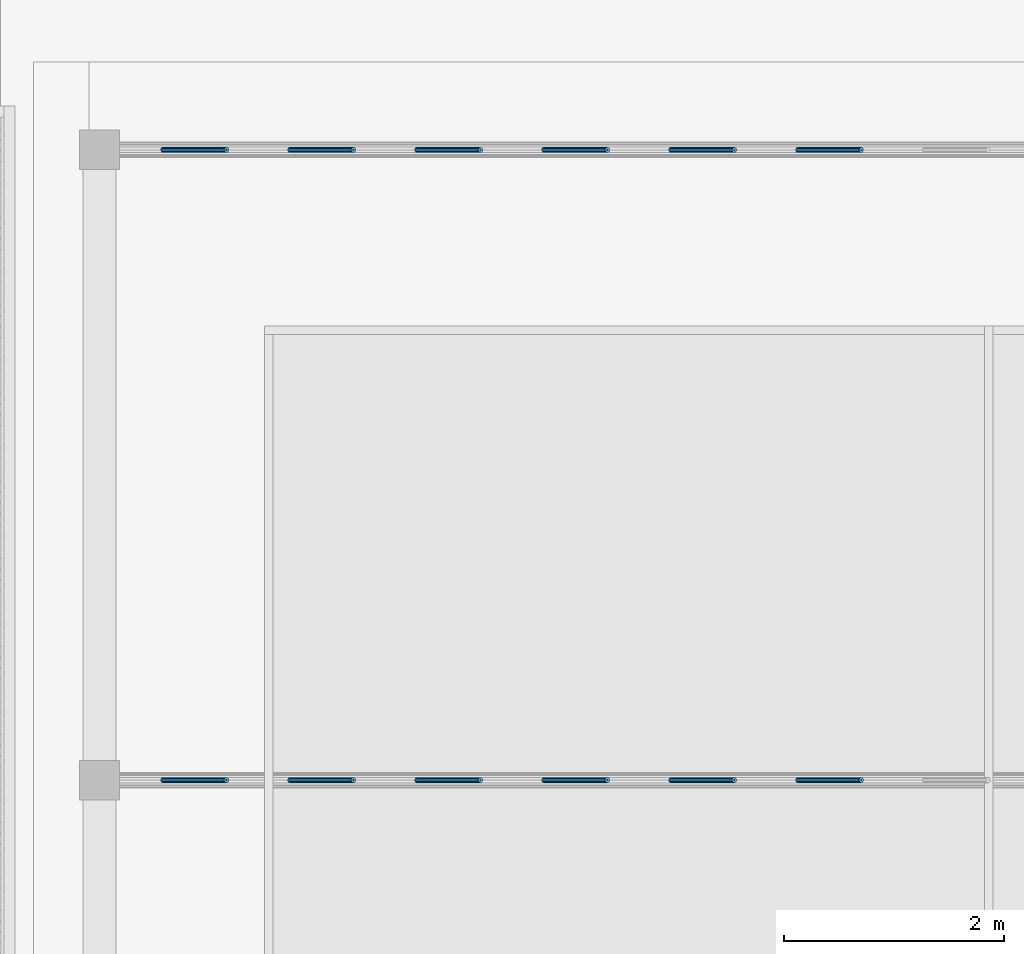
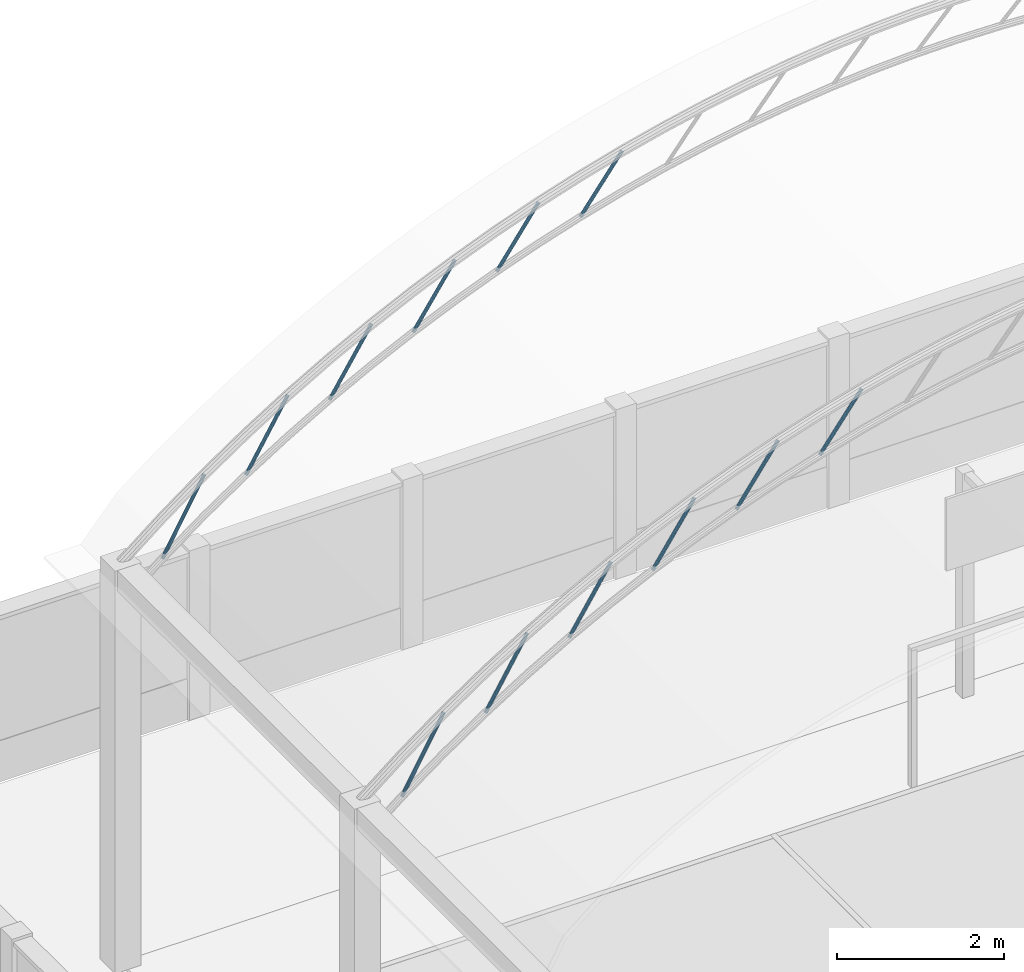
# One storey, part 22 of 151: 12 beams.
"""IFC2X3 building model written with IfcOpenShell, lengths in metres."""

from ifc_helpers import new_model, si_unit, origin, origin_with_axes, place, context, subcontext, project, spatial, faceted_brep, element, save


model = new_model("IFC2X3")

# Units and contexts
model_context = context("Model", 3, precision=1e-05, world=origin_with_axes())
body_context = subcontext(model_context, "Body", "Model", "MODEL_VIEW")
ifc_project = project(units=[si_unit("LENGTHUNIT", "METRE"), si_unit("AREAUNIT", "SQUARE_METRE"), si_unit("VOLUMEUNIT", "CUBIC_METRE"), si_unit("PLANEANGLEUNIT", "RADIAN")], contexts=[model_context])

# Site, building, storey
site_placement = place(None, origin_with_axes())
site = spatial("IfcSite", under=ifc_project, at=site_placement, Name="Predio Los Mangos - Morales, San Martín", CompositionType="ELEMENT")
building_placement = place(site_placement, origin())
building = spatial("IfcBuilding", under=site, at=building_placement, Name="Hogar de Refugio Temporal", CompositionType="ELEMENT")
storey_placement = place(building_placement, origin())
storey = spatial("IfcBuildingStorey", under=building, at=storey_placement, Name="NIVEL 1 (NPT +0.00)", CompositionType="ELEMENT", Elevation=0.0)

# Beams
beam_1_placement = place(storey_placement, origin())
element("IfcBeam", 1, at=beam_1_placement, inside=storey, Name="diag", ObjectType="Viga", context=body_context, shape_type="Brep", body=[
    faceted_brep([(4.0666, 121.2883, 5.8202), (4.6441, 121.2883, 6.8469), (4.655, 121.2917, 6.8408), (4.0775, 121.2917, 5.8141), (4.0586, 121.2792, 5.8247), (4.6361, 121.2792, 6.8514), (4.0557, 121.2667, 5.8263), (4.6332, 121.2667, 6.8531), (4.0586, 121.2542, 5.8247), (4.6361, 121.2542, 6.8514), (4.0666, 121.245, 5.8202), (4.6441, 121.245, 6.8469), (4.0775, 121.2417, 5.8141), (4.655, 121.2417, 6.8408), (4.0884, 121.245, 5.808), (4.6659, 121.245, 6.8347), (4.0964, 121.2542, 5.8035), (4.6739, 121.2542, 6.8302), (4.0993, 121.2667, 5.8018), (4.6768, 121.2667, 6.8286), (4.0964, 121.2792, 5.8035), (4.6739, 121.2792, 6.8302), (4.0884, 121.2883, 5.808), (4.6659, 121.2883, 6.8347), (4.0756, 121.2704, 5.8151), (4.0775, 121.271, 5.8141), (4.655, 121.271, 6.8408), (4.6531, 121.2704, 6.8419), (4.0743, 121.2688, 5.8159), (4.6518, 121.2688, 6.8426), (4.0738, 121.2667, 5.8162), (4.6513, 121.2667, 6.8429), (4.0743, 121.2645, 5.8159), (4.6518, 121.2645, 6.8426), (4.0756, 121.2629, 5.8151), (4.6531, 121.2629, 6.8419), (4.0775, 121.2624, 5.8141), (4.655, 121.2624, 6.8408), (4.0794, 121.2629, 5.813), (4.6569, 121.2629, 6.8398), (4.0807, 121.2645, 5.8123), (4.6582, 121.2645, 6.839), (4.0812, 121.2667, 5.812), (4.6587, 121.2667, 6.8387), (4.0807, 121.2688, 5.8123), (4.6582, 121.2688, 6.839), (4.0794, 121.2704, 5.813), (4.6569, 121.2704, 6.8398)], [[[0, 1, 2, 3]], [[4, 5, 1, 0]], [[6, 7, 5, 4]], [[8, 9, 7, 6]], [[10, 11, 9, 8]], [[12, 13, 11, 10]], [[14, 15, 13, 12]], [[16, 17, 15, 14]], [[18, 19, 17, 16]], [[20, 21, 19, 18]], [[22, 23, 21, 20]], [[3, 2, 23, 22]], [[24, 25, 26, 27]], [[28, 24, 27, 29]], [[30, 28, 29, 31]], [[32, 30, 31, 33]], [[34, 32, 33, 35]], [[36, 34, 35, 37]], [[38, 36, 37, 39]], [[40, 38, 39, 41]], [[42, 40, 41, 43]], [[44, 42, 43, 45]], [[46, 44, 45, 47]], [[25, 46, 47, 26]], [[4, 0, 24, 28]], [[14, 12, 36, 38]], [[3, 22, 46, 25]], [[7, 9, 33, 31]], [[17, 19, 43, 41]], [[23, 2, 26, 47]], [[10, 8, 32, 34]], [[20, 18, 42, 44]], [[1, 5, 29, 27]], [[13, 15, 39, 37]], [[6, 4, 28, 30]], [[16, 14, 38, 40]], [[0, 3, 25, 24]], [[9, 11, 35, 33]], [[19, 21, 45, 43]], [[12, 10, 34, 36]], [[22, 20, 44, 46]], [[5, 7, 31, 29]], [[15, 17, 41, 39]], [[2, 1, 27, 26]], [[8, 6, 30, 32]], [[18, 16, 40, 42]], [[11, 13, 37, 35]], [[21, 23, 47, 45]]]),
])
beam_2_placement = place(storey_placement, origin())
element("IfcBeam", 2, at=beam_2_placement, inside=storey, Name="diag", ObjectType="Viga", context=body_context, shape_type="Brep", body=[
    faceted_brep([(5.2218, 121.2883, 6.6398), (5.7993, 121.2883, 7.6007), (5.81, 121.2917, 7.5943), (5.2325, 121.2917, 6.6333), (5.2139, 121.2792, 6.6445), (5.7914, 121.2792, 7.6055), (5.2111, 121.2667, 6.6462), (5.7886, 121.2667, 7.6072), (5.2139, 121.2542, 6.6445), (5.7914, 121.2542, 7.6055), (5.2218, 121.245, 6.6398), (5.7993, 121.245, 7.6007), (5.2325, 121.2417, 6.6333), (5.81, 121.2417, 7.5943), (5.2432, 121.245, 6.6269), (5.8207, 121.245, 7.5879), (5.2511, 121.2542, 6.6222), (5.8286, 121.2542, 7.5832), (5.2539, 121.2667, 6.6205), (5.8314, 121.2667, 7.5814), (5.2511, 121.2792, 6.6222), (5.8286, 121.2792, 7.5832), (5.2432, 121.2883, 6.6269), (5.8207, 121.2883, 7.5879), (5.2307, 121.2704, 6.6345), (5.2325, 121.271, 6.6333), (5.81, 121.271, 7.5943), (5.8082, 121.2704, 7.5954), (5.2293, 121.2688, 6.6353), (5.8068, 121.2688, 7.5962), (5.2288, 121.2667, 6.6356), (5.8063, 121.2667, 7.5965), (5.2293, 121.2645, 6.6353), (5.8068, 121.2645, 7.5962), (5.2307, 121.2629, 6.6345), (5.8082, 121.2629, 7.5954), (5.2325, 121.2624, 6.6333), (5.81, 121.2624, 7.5943), (5.2343, 121.2629, 6.6322), (5.8118, 121.2629, 7.5932), (5.2357, 121.2645, 6.6314), (5.8132, 121.2645, 7.5924), (5.2362, 121.2667, 6.6311), (5.8137, 121.2667, 7.5921), (5.2357, 121.2688, 6.6314), (5.8132, 121.2688, 7.5924), (5.2343, 121.2704, 6.6322), (5.8118, 121.2704, 7.5932)], [[[0, 1, 2, 3]], [[4, 5, 1, 0]], [[6, 7, 5, 4]], [[8, 9, 7, 6]], [[10, 11, 9, 8]], [[12, 13, 11, 10]], [[14, 15, 13, 12]], [[16, 17, 15, 14]], [[18, 19, 17, 16]], [[20, 21, 19, 18]], [[22, 23, 21, 20]], [[3, 2, 23, 22]], [[24, 25, 26, 27]], [[28, 24, 27, 29]], [[30, 28, 29, 31]], [[32, 30, 31, 33]], [[34, 32, 33, 35]], [[36, 34, 35, 37]], [[38, 36, 37, 39]], [[40, 38, 39, 41]], [[42, 40, 41, 43]], [[44, 42, 43, 45]], [[46, 44, 45, 47]], [[25, 46, 47, 26]], [[4, 0, 24, 28]], [[14, 12, 36, 38]], [[3, 22, 46, 25]], [[7, 9, 33, 31]], [[17, 19, 43, 41]], [[23, 2, 26, 47]], [[10, 8, 32, 34]], [[20, 18, 42, 44]], [[1, 5, 29, 27]], [[13, 15, 39, 37]], [[6, 4, 28, 30]], [[16, 14, 38, 40]], [[0, 3, 25, 24]], [[9, 11, 35, 33]], [[19, 21, 45, 43]], [[12, 10, 34, 36]], [[22, 20, 44, 46]], [[5, 7, 31, 29]], [[15, 17, 41, 39]], [[2, 1, 27, 26]], [[8, 6, 30, 32]], [[18, 16, 40, 42]], [[11, 13, 37, 35]], [[21, 23, 47, 45]]]),
])
beam_3_placement = place(storey_placement, origin())
element("IfcBeam", 3, at=beam_3_placement, inside=storey, Name="diag", ObjectType="Viga", context=body_context, shape_type="Brep", body=[
    faceted_brep([(6.377, 121.2883, 7.3326), (6.9545, 121.2883, 8.2366), (6.965, 121.2917, 8.2298), (6.3875, 121.2917, 7.3259), (6.3693, 121.2792, 7.3375), (6.9468, 121.2792, 8.2415), (6.3664, 121.2667, 7.3393), (6.9439, 121.2667, 8.2433), (6.3693, 121.2542, 7.3375), (6.9468, 121.2542, 8.2415), (6.377, 121.245, 7.3326), (6.9545, 121.245, 8.2366), (6.3875, 121.2417, 7.3259), (6.965, 121.2417, 8.2298), (6.398, 121.245, 7.3191), (6.9755, 121.245, 8.2231), (6.4057, 121.2542, 7.3142), (6.9832, 121.2542, 8.2182), (6.4086, 121.2667, 7.3124), (6.9861, 121.2667, 8.2164), (6.4057, 121.2792, 7.3142), (6.9832, 121.2792, 8.2182), (6.398, 121.2883, 7.3191), (6.9755, 121.2883, 8.2231), (6.3857, 121.2704, 7.327), (6.3875, 121.271, 7.3259), (6.965, 121.271, 8.2298), (6.9632, 121.2704, 8.231), (6.3844, 121.2688, 7.3279), (6.9619, 121.2688, 8.2318), (6.3839, 121.2667, 7.3282), (6.9614, 121.2667, 8.2321), (6.3844, 121.2645, 7.3279), (6.9619, 121.2645, 8.2318), (6.3857, 121.2629, 7.327), (6.9632, 121.2629, 8.231), (6.3875, 121.2624, 7.3259), (6.965, 121.2624, 8.2298), (6.3893, 121.2629, 7.3247), (6.9668, 121.2629, 8.2287), (6.3906, 121.2645, 7.3239), (6.9681, 121.2645, 8.2278), (6.3911, 121.2667, 7.3235), (6.9686, 121.2667, 8.2275), (6.3906, 121.2688, 7.3239), (6.9681, 121.2688, 8.2278), (6.3893, 121.2704, 7.3247), (6.9668, 121.2704, 8.2287)], [[[0, 1, 2, 3]], [[4, 5, 1, 0]], [[6, 7, 5, 4]], [[8, 9, 7, 6]], [[10, 11, 9, 8]], [[12, 13, 11, 10]], [[14, 15, 13, 12]], [[16, 17, 15, 14]], [[18, 19, 17, 16]], [[20, 21, 19, 18]], [[22, 23, 21, 20]], [[3, 2, 23, 22]], [[24, 25, 26, 27]], [[28, 24, 27, 29]], [[30, 28, 29, 31]], [[32, 30, 31, 33]], [[34, 32, 33, 35]], [[36, 34, 35, 37]], [[38, 36, 37, 39]], [[40, 38, 39, 41]], [[42, 40, 41, 43]], [[44, 42, 43, 45]], [[46, 44, 45, 47]], [[25, 46, 47, 26]], [[4, 0, 24, 28]], [[14, 12, 36, 38]], [[3, 22, 46, 25]], [[7, 9, 33, 31]], [[17, 19, 43, 41]], [[23, 2, 26, 47]], [[10, 8, 32, 34]], [[20, 18, 42, 44]], [[1, 5, 29, 27]], [[13, 15, 39, 37]], [[6, 4, 28, 30]], [[16, 14, 38, 40]], [[0, 3, 25, 24]], [[9, 11, 35, 33]], [[19, 21, 45, 43]], [[12, 10, 34, 36]], [[22, 20, 44, 46]], [[5, 7, 31, 29]], [[15, 17, 41, 39]], [[2, 1, 27, 26]], [[8, 6, 30, 32]], [[18, 16, 40, 42]], [[11, 13, 37, 35]], [[21, 23, 47, 45]]]),
])
beam_4_placement = place(storey_placement, origin())
element("IfcBeam", 4, at=beam_4_placement, inside=storey, Name="diag", ObjectType="Viga", context=body_context, shape_type="Brep", body=[
    faceted_brep([(7.5321, 121.2883, 7.9148), (8.1096, 121.2883, 8.7679), (8.12, 121.2917, 8.7609), (7.5425, 121.2917, 7.9077), (7.5246, 121.2792, 7.9199), (8.1021, 121.2792, 8.7731), (7.5218, 121.2667, 7.9218), (8.0993, 121.2667, 8.7749), (7.5246, 121.2542, 7.9199), (8.1021, 121.2542, 8.7731), (7.5321, 121.245, 7.9148), (8.1096, 121.245, 8.7679), (7.5425, 121.2417, 7.9077), (8.12, 121.2417, 8.7609), (7.5529, 121.245, 7.9007), (8.1304, 121.245, 8.7539), (7.5604, 121.2542, 7.8956), (8.1379, 121.2542, 8.7488), (7.5632, 121.2667, 7.8937), (8.1407, 121.2667, 8.7469), (7.5604, 121.2792, 7.8956), (8.1379, 121.2792, 8.7488), (7.5529, 121.2883, 7.9007), (8.1304, 121.2883, 8.7539), (7.5407, 121.2704, 7.9089), (7.5425, 121.271, 7.9077), (8.12, 121.271, 8.7609), (8.1182, 121.2704, 8.7621), (7.5394, 121.2688, 7.9098), (8.1169, 121.2688, 8.763), (7.5389, 121.2667, 7.9102), (8.1164, 121.2667, 8.7633), (7.5394, 121.2645, 7.9098), (8.1169, 121.2645, 8.763), (7.5407, 121.2629, 7.9089), (8.1182, 121.2629, 8.7621), (7.5425, 121.2624, 7.9077), (8.12, 121.2624, 8.7609), (7.5443, 121.2629, 7.9065), (8.1218, 121.2629, 8.7597), (7.5456, 121.2645, 7.9057), (8.1231, 121.2645, 8.7588), (7.5461, 121.2667, 7.9053), (8.1236, 121.2667, 8.7585), (7.5456, 121.2688, 7.9057), (8.1231, 121.2688, 8.7588), (7.5443, 121.2704, 7.9065), (8.1218, 121.2704, 8.7597)], [[[0, 1, 2, 3]], [[4, 5, 1, 0]], [[6, 7, 5, 4]], [[8, 9, 7, 6]], [[10, 11, 9, 8]], [[12, 13, 11, 10]], [[14, 15, 13, 12]], [[16, 17, 15, 14]], [[18, 19, 17, 16]], [[20, 21, 19, 18]], [[22, 23, 21, 20]], [[3, 2, 23, 22]], [[24, 25, 26, 27]], [[28, 24, 27, 29]], [[30, 28, 29, 31]], [[32, 30, 31, 33]], [[34, 32, 33, 35]], [[36, 34, 35, 37]], [[38, 36, 37, 39]], [[40, 38, 39, 41]], [[42, 40, 41, 43]], [[44, 42, 43, 45]], [[46, 44, 45, 47]], [[25, 46, 47, 26]], [[4, 0, 24, 28]], [[14, 12, 36, 38]], [[3, 22, 46, 25]], [[7, 9, 33, 31]], [[17, 19, 43, 41]], [[23, 2, 26, 47]], [[10, 8, 32, 34]], [[20, 18, 42, 44]], [[1, 5, 29, 27]], [[13, 15, 39, 37]], [[6, 4, 28, 30]], [[16, 14, 38, 40]], [[0, 3, 25, 24]], [[9, 11, 35, 33]], [[19, 21, 45, 43]], [[12, 10, 34, 36]], [[22, 20, 44, 46]], [[5, 7, 31, 29]], [[15, 17, 41, 39]], [[2, 1, 27, 26]], [[8, 6, 30, 32]], [[18, 16, 40, 42]], [[11, 13, 37, 35]], [[21, 23, 47, 45]]]),
])
beam_5_placement = place(storey_placement, origin())
element("IfcBeam", 5, at=beam_5_placement, inside=storey, Name="diag", ObjectType="Viga", context=body_context, shape_type="Brep", body=[
    faceted_brep([(8.6873, 121.2883, 8.3978), (9.2648, 121.2883, 9.2047), (9.275, 121.2917, 9.1974), (8.6975, 121.2917, 8.3905), (8.6799, 121.2792, 8.4031), (9.2574, 121.2792, 9.21), (8.6772, 121.2667, 8.405), (9.2547, 121.2667, 9.2119), (8.6799, 121.2542, 8.4031), (9.2574, 121.2542, 9.21), (8.6873, 121.245, 8.3978), (9.2648, 121.245, 9.2047), (8.6975, 121.2417, 8.3905), (9.275, 121.2417, 9.1974), (8.7077, 121.245, 8.3832), (9.2852, 121.245, 9.1901), (8.7151, 121.2542, 8.3779), (9.2926, 121.2542, 9.1848), (8.7178, 121.2667, 8.3759), (9.2953, 121.2667, 9.1828), (8.7151, 121.2792, 8.3779), (9.2926, 121.2792, 9.1848), (8.7077, 121.2883, 8.3832), (9.2852, 121.2883, 9.1901), (8.6958, 121.2704, 8.3917), (8.6975, 121.271, 8.3905), (9.275, 121.271, 9.1974), (9.2733, 121.2704, 9.1986), (8.6945, 121.2688, 8.3927), (9.272, 121.2688, 9.1996), (8.694, 121.2667, 8.393), (9.2715, 121.2667, 9.1999), (8.6945, 121.2645, 8.3927), (9.272, 121.2645, 9.1996), (8.6958, 121.2629, 8.3917), (9.2733, 121.2629, 9.1986), (8.6975, 121.2624, 8.3905), (9.275, 121.2624, 9.1974), (8.6992, 121.2629, 8.3892), (9.2767, 121.2629, 9.1961), (8.7005, 121.2645, 8.3883), (9.278, 121.2645, 9.1952), (8.701, 121.2667, 8.388), (9.2785, 121.2667, 9.1949), (8.7005, 121.2688, 8.3883), (9.278, 121.2688, 9.1952), (8.6992, 121.2704, 8.3892), (9.2767, 121.2704, 9.1961)], [[[0, 1, 2, 3]], [[4, 5, 1, 0]], [[6, 7, 5, 4]], [[8, 9, 7, 6]], [[10, 11, 9, 8]], [[12, 13, 11, 10]], [[14, 15, 13, 12]], [[16, 17, 15, 14]], [[18, 19, 17, 16]], [[20, 21, 19, 18]], [[22, 23, 21, 20]], [[3, 2, 23, 22]], [[24, 25, 26, 27]], [[28, 24, 27, 29]], [[30, 28, 29, 31]], [[32, 30, 31, 33]], [[34, 32, 33, 35]], [[36, 34, 35, 37]], [[38, 36, 37, 39]], [[40, 38, 39, 41]], [[42, 40, 41, 43]], [[44, 42, 43, 45]], [[46, 44, 45, 47]], [[25, 46, 47, 26]], [[15, 17, 41, 39]], [[2, 1, 27, 26]], [[8, 6, 30, 32]], [[18, 16, 40, 42]], [[11, 13, 37, 35]], [[21, 23, 47, 45]], [[4, 0, 24, 28]], [[14, 12, 36, 38]], [[3, 22, 46, 25]], [[7, 9, 33, 31]], [[17, 19, 43, 41]], [[23, 2, 26, 47]], [[10, 8, 32, 34]], [[20, 18, 42, 44]], [[1, 5, 29, 27]], [[13, 15, 39, 37]], [[6, 4, 28, 30]], [[16, 14, 38, 40]], [[0, 3, 25, 24]], [[9, 11, 35, 33]], [[19, 21, 45, 43]], [[12, 10, 34, 36]], [[22, 20, 44, 46]], [[5, 7, 31, 29]]]),
])
beam_6_placement = place(storey_placement, origin())
element("IfcBeam", 6, at=beam_6_placement, inside=storey, Name="diag", ObjectType="Viga", context=body_context, shape_type="Brep", body=[
    faceted_brep([(9.8425, 121.2883, 8.79), (10.42, 121.2883, 9.5539), (10.43, 121.2917, 9.5463), (9.8525, 121.2917, 8.7824), (9.8352, 121.2792, 8.7955), (10.4127, 121.2792, 9.5594), (9.8326, 121.2667, 8.7975), (10.4101, 121.2667, 9.5614), (9.8352, 121.2542, 8.7955), (10.4127, 121.2542, 9.5594), (9.8425, 121.245, 8.79), (10.42, 121.245, 9.5539), (9.8525, 121.2417, 8.7824), (10.43, 121.2417, 9.5463), (9.8625, 121.245, 8.7749), (10.44, 121.245, 9.5388), (9.8698, 121.2542, 8.7694), (10.4473, 121.2542, 9.5333), (9.8724, 121.2667, 8.7674), (10.4499, 121.2667, 9.5313), (9.8698, 121.2792, 8.7694), (10.4473, 121.2792, 9.5333), (9.8625, 121.2883, 8.7749), (10.44, 121.2883, 9.5388), (9.8508, 121.2704, 8.7837), (9.8525, 121.271, 8.7824), (10.43, 121.271, 9.5463), (10.4283, 121.2704, 9.5476), (9.8495, 121.2688, 8.7847), (10.427, 121.2688, 9.5486), (9.8491, 121.2667, 8.785), (10.4266, 121.2667, 9.5489), (9.8495, 121.2645, 8.7847), (10.427, 121.2645, 9.5486), (9.8508, 121.2629, 8.7837), (10.4283, 121.2629, 9.5476), (9.8525, 121.2624, 8.7824), (10.43, 121.2624, 9.5463), (9.8542, 121.2629, 8.7812), (10.4317, 121.2629, 9.5451), (9.8555, 121.2645, 8.7802), (10.433, 121.2645, 9.5441), (9.8559, 121.2667, 8.7799), (10.4334, 121.2667, 9.5438), (9.8555, 121.2688, 8.7802), (10.433, 121.2688, 9.5441), (9.8542, 121.2704, 8.7812), (10.4317, 121.2704, 9.5451)], [[[0, 1, 2, 3]], [[4, 5, 1, 0]], [[6, 7, 5, 4]], [[8, 9, 7, 6]], [[10, 11, 9, 8]], [[12, 13, 11, 10]], [[14, 15, 13, 12]], [[16, 17, 15, 14]], [[18, 19, 17, 16]], [[20, 21, 19, 18]], [[22, 23, 21, 20]], [[3, 2, 23, 22]], [[24, 25, 26, 27]], [[28, 24, 27, 29]], [[30, 28, 29, 31]], [[32, 30, 31, 33]], [[34, 32, 33, 35]], [[36, 34, 35, 37]], [[38, 36, 37, 39]], [[40, 38, 39, 41]], [[42, 40, 41, 43]], [[44, 42, 43, 45]], [[46, 44, 45, 47]], [[25, 46, 47, 26]], [[6, 4, 28, 30]], [[16, 14, 38, 40]], [[0, 3, 25, 24]], [[9, 11, 35, 33]], [[19, 21, 45, 43]], [[12, 10, 34, 36]], [[22, 20, 44, 46]], [[5, 7, 31, 29]], [[15, 17, 41, 39]], [[2, 1, 27, 26]], [[8, 6, 30, 32]], [[18, 16, 40, 42]], [[11, 13, 37, 35]], [[21, 23, 47, 45]], [[4, 0, 24, 28]], [[14, 12, 36, 38]], [[3, 22, 46, 25]], [[7, 9, 33, 31]], [[17, 19, 43, 41]], [[23, 2, 26, 47]], [[10, 8, 32, 34]], [[20, 18, 42, 44]], [[1, 5, 29, 27]], [[13, 15, 39, 37]]]),
])
beam_7_placement = place(storey_placement, origin())
element("IfcBeam", 7, at=beam_7_placement, inside=storey, Name="diag", ObjectType="Viga", context=body_context, shape_type="Brep", body=[
    faceted_brep([(4.0666, 127.0217, 5.8202), (4.6441, 127.0217, 6.8469), (4.655, 127.025, 6.8408), (4.0775, 127.025, 5.8141), (4.0586, 127.0125, 5.8247), (4.6361, 127.0125, 6.8514), (4.0557, 127.0, 5.8263), (4.6332, 127.0, 6.8531), (4.0586, 126.9875, 5.8247), (4.6361, 126.9875, 6.8514), (4.0666, 126.9783, 5.8202), (4.6441, 126.9783, 6.8469), (4.0775, 126.975, 5.8141), (4.655, 126.975, 6.8408), (4.0884, 126.9783, 5.808), (4.6659, 126.9783, 6.8347), (4.0964, 126.9875, 5.8035), (4.6739, 126.9875, 6.8302), (4.0993, 127.0, 5.8018), (4.6768, 127.0, 6.8286), (4.0964, 127.0125, 5.8035), (4.6739, 127.0125, 6.8302), (4.0884, 127.0217, 5.808), (4.6659, 127.0217, 6.8347), (4.0756, 127.0037, 5.8151), (4.0775, 127.0043, 5.8141), (4.655, 127.0043, 6.8408), (4.6531, 127.0037, 6.8419), (4.0743, 127.0021, 5.8159), (4.6518, 127.0021, 6.8426), (4.0738, 127.0, 5.8162), (4.6513, 127.0, 6.8429), (4.0743, 126.9979, 5.8159), (4.6518, 126.9979, 6.8426), (4.0756, 126.9963, 5.8151), (4.6531, 126.9963, 6.8419), (4.0775, 126.9957, 5.8141), (4.655, 126.9957, 6.8408), (4.0794, 126.9963, 5.813), (4.6569, 126.9963, 6.8398), (4.0807, 126.9979, 5.8123), (4.6582, 126.9979, 6.839), (4.0812, 127.0, 5.812), (4.6587, 127.0, 6.8387), (4.0807, 127.0021, 5.8123), (4.6582, 127.0021, 6.839), (4.0794, 127.0037, 5.813), (4.6569, 127.0037, 6.8398)], [[[0, 1, 2, 3]], [[4, 5, 1, 0]], [[6, 7, 5, 4]], [[8, 9, 7, 6]], [[10, 11, 9, 8]], [[12, 13, 11, 10]], [[14, 15, 13, 12]], [[16, 17, 15, 14]], [[18, 19, 17, 16]], [[20, 21, 19, 18]], [[22, 23, 21, 20]], [[3, 2, 23, 22]], [[24, 25, 26, 27]], [[28, 24, 27, 29]], [[30, 28, 29, 31]], [[32, 30, 31, 33]], [[34, 32, 33, 35]], [[36, 34, 35, 37]], [[38, 36, 37, 39]], [[40, 38, 39, 41]], [[42, 40, 41, 43]], [[44, 42, 43, 45]], [[46, 44, 45, 47]], [[25, 46, 47, 26]], [[20, 18, 42, 44]], [[1, 5, 29, 27]], [[13, 15, 39, 37]], [[6, 4, 28, 30]], [[16, 14, 38, 40]], [[0, 3, 25, 24]], [[9, 11, 35, 33]], [[19, 21, 45, 43]], [[12, 10, 34, 36]], [[22, 20, 44, 46]], [[5, 7, 31, 29]], [[15, 17, 41, 39]], [[2, 1, 27, 26]], [[8, 6, 30, 32]], [[18, 16, 40, 42]], [[11, 13, 37, 35]], [[21, 23, 47, 45]], [[4, 0, 24, 28]], [[14, 12, 36, 38]], [[3, 22, 46, 25]], [[7, 9, 33, 31]], [[17, 19, 43, 41]], [[23, 2, 26, 47]], [[10, 8, 32, 34]]]),
])
beam_8_placement = place(storey_placement, origin())
element("IfcBeam", 8, at=beam_8_placement, inside=storey, Name="diag", ObjectType="Viga", context=body_context, shape_type="Brep", body=[
    faceted_brep([(5.2218, 127.0217, 6.6398), (5.7993, 127.0217, 7.6007), (5.81, 127.025, 7.5943), (5.2325, 127.025, 6.6333), (5.2139, 127.0125, 6.6445), (5.7914, 127.0125, 7.6055), (5.2111, 127.0, 6.6462), (5.7886, 127.0, 7.6072), (5.2139, 126.9875, 6.6445), (5.7914, 126.9875, 7.6055), (5.2218, 126.9783, 6.6398), (5.7993, 126.9783, 7.6007), (5.2325, 126.975, 6.6333), (5.81, 126.975, 7.5943), (5.2432, 126.9783, 6.6269), (5.8207, 126.9783, 7.5879), (5.2511, 126.9875, 6.6222), (5.8286, 126.9875, 7.5832), (5.2539, 127.0, 6.6205), (5.8314, 127.0, 7.5814), (5.2511, 127.0125, 6.6222), (5.8286, 127.0125, 7.5832), (5.2432, 127.0217, 6.6269), (5.8207, 127.0217, 7.5879), (5.2307, 127.0037, 6.6345), (5.2325, 127.0043, 6.6333), (5.81, 127.0043, 7.5943), (5.8082, 127.0037, 7.5954), (5.2293, 127.0021, 6.6353), (5.8068, 127.0021, 7.5962), (5.2288, 127.0, 6.6356), (5.8063, 127.0, 7.5965), (5.2293, 126.9979, 6.6353), (5.8068, 126.9979, 7.5962), (5.2307, 126.9963, 6.6345), (5.8082, 126.9963, 7.5954), (5.2325, 126.9957, 6.6333), (5.81, 126.9957, 7.5943), (5.2343, 126.9963, 6.6322), (5.8118, 126.9963, 7.5932), (5.2357, 126.9979, 6.6314), (5.8132, 126.9979, 7.5924), (5.2362, 127.0, 6.6311), (5.8137, 127.0, 7.5921), (5.2357, 127.0021, 6.6314), (5.8132, 127.0021, 7.5924), (5.2343, 127.0037, 6.6322), (5.8118, 127.0037, 7.5932)], [[[0, 1, 2, 3]], [[4, 5, 1, 0]], [[6, 7, 5, 4]], [[8, 9, 7, 6]], [[10, 11, 9, 8]], [[12, 13, 11, 10]], [[14, 15, 13, 12]], [[16, 17, 15, 14]], [[18, 19, 17, 16]], [[20, 21, 19, 18]], [[22, 23, 21, 20]], [[3, 2, 23, 22]], [[24, 25, 26, 27]], [[28, 24, 27, 29]], [[30, 28, 29, 31]], [[32, 30, 31, 33]], [[34, 32, 33, 35]], [[36, 34, 35, 37]], [[38, 36, 37, 39]], [[40, 38, 39, 41]], [[42, 40, 41, 43]], [[44, 42, 43, 45]], [[46, 44, 45, 47]], [[25, 46, 47, 26]], [[20, 18, 42, 44]], [[1, 5, 29, 27]], [[13, 15, 39, 37]], [[6, 4, 28, 30]], [[16, 14, 38, 40]], [[0, 3, 25, 24]], [[9, 11, 35, 33]], [[19, 21, 45, 43]], [[12, 10, 34, 36]], [[22, 20, 44, 46]], [[5, 7, 31, 29]], [[15, 17, 41, 39]], [[2, 1, 27, 26]], [[8, 6, 30, 32]], [[18, 16, 40, 42]], [[11, 13, 37, 35]], [[21, 23, 47, 45]], [[4, 0, 24, 28]], [[14, 12, 36, 38]], [[3, 22, 46, 25]], [[7, 9, 33, 31]], [[17, 19, 43, 41]], [[23, 2, 26, 47]], [[10, 8, 32, 34]]]),
])
beam_9_placement = place(storey_placement, origin())
element("IfcBeam", 9, at=beam_9_placement, inside=storey, Name="diag", ObjectType="Viga", context=body_context, shape_type="Brep", body=[
    faceted_brep([(6.377, 127.0217, 7.3326), (6.9545, 127.0217, 8.2366), (6.965, 127.025, 8.2298), (6.3875, 127.025, 7.3259), (6.3693, 127.0125, 7.3375), (6.9468, 127.0125, 8.2415), (6.3664, 127.0, 7.3393), (6.9439, 127.0, 8.2433), (6.3693, 126.9875, 7.3375), (6.9468, 126.9875, 8.2415), (6.377, 126.9783, 7.3326), (6.9545, 126.9783, 8.2366), (6.3875, 126.975, 7.3259), (6.965, 126.975, 8.2298), (6.398, 126.9783, 7.3191), (6.9755, 126.9783, 8.2231), (6.4057, 126.9875, 7.3142), (6.9832, 126.9875, 8.2182), (6.4086, 127.0, 7.3124), (6.9861, 127.0, 8.2164), (6.4057, 127.0125, 7.3142), (6.9832, 127.0125, 8.2182), (6.398, 127.0217, 7.3191), (6.9755, 127.0217, 8.2231), (6.3857, 127.0037, 7.327), (6.3875, 127.0043, 7.3259), (6.965, 127.0043, 8.2298), (6.9632, 127.0037, 8.231), (6.3844, 127.0021, 7.3279), (6.9619, 127.0021, 8.2318), (6.3839, 127.0, 7.3282), (6.9614, 127.0, 8.2321), (6.3844, 126.9979, 7.3279), (6.9619, 126.9979, 8.2318), (6.3857, 126.9963, 7.327), (6.9632, 126.9963, 8.231), (6.3875, 126.9957, 7.3259), (6.965, 126.9957, 8.2298), (6.3893, 126.9963, 7.3247), (6.9668, 126.9963, 8.2287), (6.3906, 126.9979, 7.3239), (6.9681, 126.9979, 8.2278), (6.3911, 127.0, 7.3235), (6.9686, 127.0, 8.2275), (6.3906, 127.0021, 7.3239), (6.9681, 127.0021, 8.2278), (6.3893, 127.0037, 7.3247), (6.9668, 127.0037, 8.2287)], [[[0, 1, 2, 3]], [[4, 5, 1, 0]], [[6, 7, 5, 4]], [[8, 9, 7, 6]], [[10, 11, 9, 8]], [[12, 13, 11, 10]], [[14, 15, 13, 12]], [[16, 17, 15, 14]], [[18, 19, 17, 16]], [[20, 21, 19, 18]], [[22, 23, 21, 20]], [[3, 2, 23, 22]], [[24, 25, 26, 27]], [[28, 24, 27, 29]], [[30, 28, 29, 31]], [[32, 30, 31, 33]], [[34, 32, 33, 35]], [[36, 34, 35, 37]], [[38, 36, 37, 39]], [[40, 38, 39, 41]], [[42, 40, 41, 43]], [[44, 42, 43, 45]], [[46, 44, 45, 47]], [[25, 46, 47, 26]], [[20, 18, 42, 44]], [[1, 5, 29, 27]], [[13, 15, 39, 37]], [[6, 4, 28, 30]], [[16, 14, 38, 40]], [[0, 3, 25, 24]], [[9, 11, 35, 33]], [[19, 21, 45, 43]], [[12, 10, 34, 36]], [[22, 20, 44, 46]], [[5, 7, 31, 29]], [[15, 17, 41, 39]], [[2, 1, 27, 26]], [[8, 6, 30, 32]], [[18, 16, 40, 42]], [[11, 13, 37, 35]], [[21, 23, 47, 45]], [[4, 0, 24, 28]], [[14, 12, 36, 38]], [[3, 22, 46, 25]], [[7, 9, 33, 31]], [[17, 19, 43, 41]], [[23, 2, 26, 47]], [[10, 8, 32, 34]]]),
])
beam_10_placement = place(storey_placement, origin())
element("IfcBeam", 10, at=beam_10_placement, inside=storey, Name="diag", ObjectType="Viga", context=body_context, shape_type="Brep", body=[
    faceted_brep([(7.5321, 127.0217, 7.9148), (8.1096, 127.0217, 8.7679), (8.12, 127.025, 8.7609), (7.5425, 127.025, 7.9077), (7.5246, 127.0125, 7.9199), (8.1021, 127.0125, 8.7731), (7.5218, 127.0, 7.9218), (8.0993, 127.0, 8.7749), (7.5246, 126.9875, 7.9199), (8.1021, 126.9875, 8.7731), (7.5321, 126.9783, 7.9148), (8.1096, 126.9783, 8.7679), (7.5425, 126.975, 7.9077), (8.12, 126.975, 8.7609), (7.5529, 126.9783, 7.9007), (8.1304, 126.9783, 8.7539), (7.5604, 126.9875, 7.8956), (8.1379, 126.9875, 8.7488), (7.5632, 127.0, 7.8937), (8.1407, 127.0, 8.7469), (7.5604, 127.0125, 7.8956), (8.1379, 127.0125, 8.7488), (7.5529, 127.0217, 7.9007), (8.1304, 127.0217, 8.7539), (7.5407, 127.0037, 7.9089), (7.5425, 127.0043, 7.9077), (8.12, 127.0043, 8.7609), (8.1182, 127.0037, 8.7621), (7.5394, 127.0021, 7.9098), (8.1169, 127.0021, 8.763), (7.5389, 127.0, 7.9102), (8.1164, 127.0, 8.7633), (7.5394, 126.9979, 7.9098), (8.1169, 126.9979, 8.763), (7.5407, 126.9963, 7.9089), (8.1182, 126.9963, 8.7621), (7.5425, 126.9957, 7.9077), (8.12, 126.9957, 8.7609), (7.5443, 126.9963, 7.9065), (8.1218, 126.9963, 8.7597), (7.5456, 126.9979, 7.9057), (8.1231, 126.9979, 8.7588), (7.5461, 127.0, 7.9053), (8.1236, 127.0, 8.7585), (7.5456, 127.0021, 7.9057), (8.1231, 127.0021, 8.7588), (7.5443, 127.0037, 7.9065), (8.1218, 127.0037, 8.7597)], [[[0, 1, 2, 3]], [[4, 5, 1, 0]], [[6, 7, 5, 4]], [[8, 9, 7, 6]], [[10, 11, 9, 8]], [[12, 13, 11, 10]], [[14, 15, 13, 12]], [[16, 17, 15, 14]], [[18, 19, 17, 16]], [[20, 21, 19, 18]], [[22, 23, 21, 20]], [[3, 2, 23, 22]], [[24, 25, 26, 27]], [[28, 24, 27, 29]], [[30, 28, 29, 31]], [[32, 30, 31, 33]], [[34, 32, 33, 35]], [[36, 34, 35, 37]], [[38, 36, 37, 39]], [[40, 38, 39, 41]], [[42, 40, 41, 43]], [[44, 42, 43, 45]], [[46, 44, 45, 47]], [[25, 46, 47, 26]], [[20, 18, 42, 44]], [[1, 5, 29, 27]], [[13, 15, 39, 37]], [[6, 4, 28, 30]], [[16, 14, 38, 40]], [[0, 3, 25, 24]], [[9, 11, 35, 33]], [[19, 21, 45, 43]], [[12, 10, 34, 36]], [[22, 20, 44, 46]], [[5, 7, 31, 29]], [[15, 17, 41, 39]], [[2, 1, 27, 26]], [[8, 6, 30, 32]], [[18, 16, 40, 42]], [[11, 13, 37, 35]], [[21, 23, 47, 45]], [[4, 0, 24, 28]], [[14, 12, 36, 38]], [[3, 22, 46, 25]], [[7, 9, 33, 31]], [[17, 19, 43, 41]], [[23, 2, 26, 47]], [[10, 8, 32, 34]]]),
])
beam_11_placement = place(storey_placement, origin())
element("IfcBeam", 11, at=beam_11_placement, inside=storey, Name="diag", ObjectType="Viga", context=body_context, shape_type="Brep", body=[
    faceted_brep([(8.6873, 127.0217, 8.3978), (9.2648, 127.0217, 9.2047), (9.275, 127.025, 9.1974), (8.6975, 127.025, 8.3905), (8.6799, 127.0125, 8.4031), (9.2574, 127.0125, 9.21), (8.6772, 127.0, 8.405), (9.2547, 127.0, 9.2119), (8.6799, 126.9875, 8.4031), (9.2574, 126.9875, 9.21), (8.6873, 126.9783, 8.3978), (9.2648, 126.9783, 9.2047), (8.6975, 126.975, 8.3905), (9.275, 126.975, 9.1974), (8.7077, 126.9783, 8.3832), (9.2852, 126.9783, 9.1901), (8.7151, 126.9875, 8.3779), (9.2926, 126.9875, 9.1848), (8.7178, 127.0, 8.3759), (9.2953, 127.0, 9.1828), (8.7151, 127.0125, 8.3779), (9.2926, 127.0125, 9.1848), (8.7077, 127.0217, 8.3832), (9.2852, 127.0217, 9.1901), (8.6958, 127.0037, 8.3917), (8.6975, 127.0043, 8.3905), (9.275, 127.0043, 9.1974), (9.2733, 127.0037, 9.1986), (8.6945, 127.0021, 8.3927), (9.272, 127.0021, 9.1996), (8.694, 127.0, 8.393), (9.2715, 127.0, 9.1999), (8.6945, 126.9979, 8.3927), (9.272, 126.9979, 9.1996), (8.6958, 126.9963, 8.3917), (9.2733, 126.9963, 9.1986), (8.6975, 126.9957, 8.3905), (9.275, 126.9957, 9.1974), (8.6992, 126.9963, 8.3892), (9.2767, 126.9963, 9.1961), (8.7005, 126.9979, 8.3883), (9.278, 126.9979, 9.1952), (8.701, 127.0, 8.388), (9.2785, 127.0, 9.1949), (8.7005, 127.0021, 8.3883), (9.278, 127.0021, 9.1952), (8.6992, 127.0037, 8.3892), (9.2767, 127.0037, 9.1961)], [[[0, 1, 2, 3]], [[4, 5, 1, 0]], [[6, 7, 5, 4]], [[8, 9, 7, 6]], [[10, 11, 9, 8]], [[12, 13, 11, 10]], [[14, 15, 13, 12]], [[16, 17, 15, 14]], [[18, 19, 17, 16]], [[20, 21, 19, 18]], [[22, 23, 21, 20]], [[3, 2, 23, 22]], [[24, 25, 26, 27]], [[28, 24, 27, 29]], [[30, 28, 29, 31]], [[32, 30, 31, 33]], [[34, 32, 33, 35]], [[36, 34, 35, 37]], [[38, 36, 37, 39]], [[40, 38, 39, 41]], [[42, 40, 41, 43]], [[44, 42, 43, 45]], [[46, 44, 45, 47]], [[25, 46, 47, 26]], [[20, 18, 42, 44]], [[1, 5, 29, 27]], [[13, 15, 39, 37]], [[6, 4, 28, 30]], [[16, 14, 38, 40]], [[0, 3, 25, 24]], [[9, 11, 35, 33]], [[19, 21, 45, 43]], [[12, 10, 34, 36]], [[22, 20, 44, 46]], [[5, 7, 31, 29]], [[15, 17, 41, 39]], [[2, 1, 27, 26]], [[8, 6, 30, 32]], [[18, 16, 40, 42]], [[11, 13, 37, 35]], [[21, 23, 47, 45]], [[4, 0, 24, 28]], [[14, 12, 36, 38]], [[3, 22, 46, 25]], [[7, 9, 33, 31]], [[17, 19, 43, 41]], [[23, 2, 26, 47]], [[10, 8, 32, 34]]]),
])
beam_12_placement = place(storey_placement, origin())
element("IfcBeam", 12, at=beam_12_placement, inside=storey, Name="diag", ObjectType="Viga", context=body_context, shape_type="Brep", body=[
    faceted_brep([(9.8425, 127.0217, 8.79), (10.42, 127.0217, 9.5539), (10.43, 127.025, 9.5463), (9.8525, 127.025, 8.7824), (9.8352, 127.0125, 8.7955), (10.4127, 127.0125, 9.5594), (9.8326, 127.0, 8.7975), (10.4101, 127.0, 9.5614), (9.8352, 126.9875, 8.7955), (10.4127, 126.9875, 9.5594), (9.8425, 126.9783, 8.79), (10.42, 126.9783, 9.5539), (9.8525, 126.975, 8.7824), (10.43, 126.975, 9.5463), (9.8625, 126.9783, 8.7749), (10.44, 126.9783, 9.5388), (9.8698, 126.9875, 8.7694), (10.4473, 126.9875, 9.5333), (9.8724, 127.0, 8.7674), (10.4499, 127.0, 9.5313), (9.8698, 127.0125, 8.7694), (10.4473, 127.0125, 9.5333), (9.8625, 127.0217, 8.7749), (10.44, 127.0217, 9.5388), (9.8508, 127.0037, 8.7837), (9.8525, 127.0043, 8.7824), (10.43, 127.0043, 9.5463), (10.4283, 127.0037, 9.5476), (9.8495, 127.0021, 8.7847), (10.427, 127.0021, 9.5486), (9.8491, 127.0, 8.785), (10.4266, 127.0, 9.5489), (9.8495, 126.9979, 8.7847), (10.427, 126.9979, 9.5486), (9.8508, 126.9963, 8.7837), (10.4283, 126.9963, 9.5476), (9.8525, 126.9957, 8.7824), (10.43, 126.9957, 9.5463), (9.8542, 126.9963, 8.7812), (10.4317, 126.9963, 9.5451), (9.8555, 126.9979, 8.7802), (10.433, 126.9979, 9.5441), (9.8559, 127.0, 8.7799), (10.4334, 127.0, 9.5438), (9.8555, 127.0021, 8.7802), (10.433, 127.0021, 9.5441), (9.8542, 127.0037, 8.7812), (10.4317, 127.0037, 9.5451)], [[[0, 1, 2, 3]], [[4, 5, 1, 0]], [[6, 7, 5, 4]], [[8, 9, 7, 6]], [[10, 11, 9, 8]], [[12, 13, 11, 10]], [[14, 15, 13, 12]], [[16, 17, 15, 14]], [[18, 19, 17, 16]], [[20, 21, 19, 18]], [[22, 23, 21, 20]], [[3, 2, 23, 22]], [[24, 25, 26, 27]], [[28, 24, 27, 29]], [[30, 28, 29, 31]], [[32, 30, 31, 33]], [[34, 32, 33, 35]], [[36, 34, 35, 37]], [[38, 36, 37, 39]], [[40, 38, 39, 41]], [[42, 40, 41, 43]], [[44, 42, 43, 45]], [[46, 44, 45, 47]], [[25, 46, 47, 26]], [[20, 18, 42, 44]], [[1, 5, 29, 27]], [[13, 15, 39, 37]], [[6, 4, 28, 30]], [[16, 14, 38, 40]], [[0, 3, 25, 24]], [[9, 11, 35, 33]], [[19, 21, 45, 43]], [[12, 10, 34, 36]], [[22, 20, 44, 46]], [[5, 7, 31, 29]], [[15, 17, 41, 39]], [[2, 1, 27, 26]], [[8, 6, 30, 32]], [[18, 16, 40, 42]], [[11, 13, 37, 35]], [[21, 23, 47, 45]], [[4, 0, 24, 28]], [[14, 12, 36, 38]], [[3, 22, 46, 25]], [[7, 9, 33, 31]], [[17, 19, 43, 41]], [[23, 2, 26, 47]], [[10, 8, 32, 34]]]),
])

save(model, "model.ifc")
